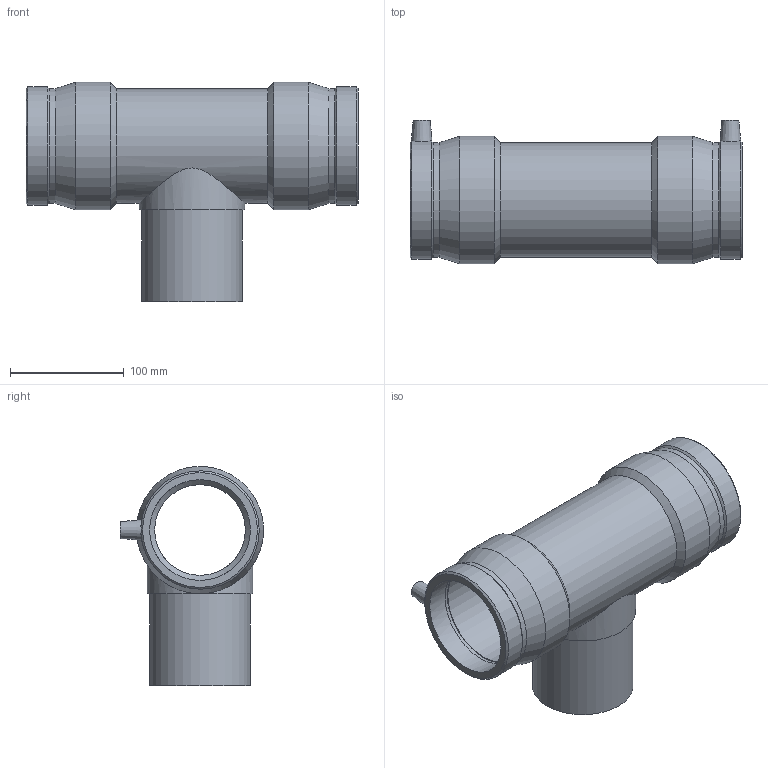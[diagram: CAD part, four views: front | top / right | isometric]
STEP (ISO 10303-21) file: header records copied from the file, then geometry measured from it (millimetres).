
FILE_DESCRIPTION(/* description */ ('PLASSON TEE 3''''IPS'),/* implementation_level */ '2;1');
FILE_NAME(/* name */ 'C:\Dropbox\KIMPROJECTS-Inventor 2019\99-16-3568-Processing Inch\ASTM ElectroFusion 2021\5904B\5904B003030.ipt.stp',/* time_stamp */ '2021-08-30T09:49:38+03:00',/* author */ ('KIM'),/* organization */ (''),/* preprocessor_version */ 'ST-DEVELOPER v17.2',/* originating_system */ 'Autodesk Inventor 2019',/* authorisation */ '');
FILE_SCHEMA (('AUTOMOTIVE_DESIGN { 1 0 10303 214 3 1 1 }'));
Length unit declared in the file: inch
Products named in the file (1): 5904B003030
Bounding box: 292.1 x 126.11 x 192.91 mm (x, y, z)
Volume: 1061507.8 mm3; surface area: 226502.2 mm2
Topology: 1 solids, 1 shells, 47 faces, 120 edges, 83 vertices
Faces by surface type: cylinder 19, cone 16, plane 12
Full cylindrical faces by diameter (mm): 4 x2, 10 x2, 70.96 x1, 79.83 x1, 88.7 x5, 93.135 x1, 100.813 x1, 101.048 x2, 112.014 x2
Entity records: 1760 total; most frequent: CARTESIAN_POINT 519, DIRECTION 269, ORIENTED_EDGE 240, EDGE_CURVE 120, AXIS2_PLACEMENT_3D 119, VERTEX_POINT 83, CIRCLE 71, EDGE_LOOP 59
